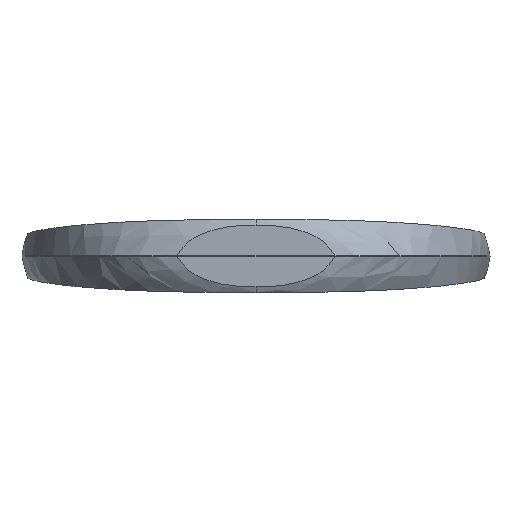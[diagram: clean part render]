
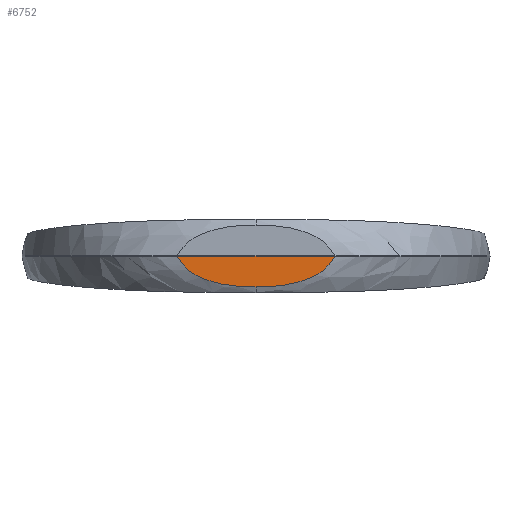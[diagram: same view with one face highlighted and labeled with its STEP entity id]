
A CAD part, front view. The second image highlights one B-rep face of the part: STEP entity #6752.
In plain terms, the highlighted planar face has unit normal (0, -1, 0).
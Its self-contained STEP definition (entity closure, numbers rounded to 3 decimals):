
#26 = CARTESIAN_POINT ( 'NONE',  ( -28.183, 0., -18.557 ) ) ;
#81 = CARTESIAN_POINT ( 'NONE',  ( -45.796, 0., -10.777 ) ) ;
#174 = CARTESIAN_POINT ( 'NONE',  ( 24.337, 0., -19.426 ) ) ;
#275 = CARTESIAN_POINT ( 'NONE',  ( 39.111, 0., -14.675 ) ) ;
#559 = CARTESIAN_POINT ( 'NONE',  ( -47.297, 0., -9.554 ) ) ;
#662 = ORIENTED_EDGE ( 'NONE', *, *, #6429, .F. ) ;
#953 = CARTESIAN_POINT ( 'NONE',  ( 17.998, 0., -20.532 ) ) ;
#1237 = CARTESIAN_POINT ( 'NONE',  ( -52.148, 0., -4.315 ) ) ;
#1287 = CARTESIAN_POINT ( 'NONE',  ( 49.637, 0., -7.299 ) ) ;
#1336 = CARTESIAN_POINT ( 'NONE',  ( 52.142, 0., -4.322 ) ) ;
#1440 = CARTESIAN_POINT ( 'NONE',  ( -40.257, 0., -14.112 ) ) ;
#1448 = EDGE_CURVE ( 'NONE', #10219, #3083, #3642, .T. ) ;
#1493 = CARTESIAN_POINT ( 'NONE',  ( 0., 0., -21.39 ) ) ;
#1791 = CARTESIAN_POINT ( 'NONE',  ( 12.884, 0., -21.039 ) ) ;
#2142 = CARTESIAN_POINT ( 'NONE',  ( 55.039, 0., 0. ) ) ;
#2229 = CARTESIAN_POINT ( 'NONE',  ( -38.499, 0., -14.942 ) ) ;
#2281 = CARTESIAN_POINT ( 'NONE',  ( -43.675, 0., -12.241 ) ) ;
#2371 = FACE_OUTER_BOUND ( 'NONE', #8545, .T. ) ;
#2380 = CARTESIAN_POINT ( 'NONE',  ( -10.323, 0., -21.206 ) ) ;
#2578 = CARTESIAN_POINT ( 'NONE',  ( 28.116, 0., -18.54 ) ) ;
#2630 = CARTESIAN_POINT ( 'NONE',  ( 25.599, 0., -19.152 ) ) ;
#2792 = CARTESIAN_POINT ( 'NONE',  ( 5.169, 0., -21.388 ) ) ;
#3078 = CARTESIAN_POINT ( 'NONE',  ( -16.745, 0., -20.663 ) ) ;
#3083 = VERTEX_POINT ( 'NONE', #2142 ) ;
#3128 = CARTESIAN_POINT ( 'NONE',  ( -2.584, 0., -21.394 ) ) ;
#3481 = CARTESIAN_POINT ( 'NONE',  ( 40.28, 0., -14.117 ) ) ;
#3586 = CARTESIAN_POINT ( 'NONE',  ( 0., 0., -21.39 ) ) ;
#3642 = B_SPLINE_CURVE_WITH_KNOTS ( 'NONE', 3,
 ( #3586, #9883, #2792, #9829, #4963, #1791, #8192, #953, #4163, #174, #2630, #2578, #5862, #5071, #4271, #275, #3481, #5913, #6711, #9935, #7886, #7732, #6194, #9421, #9266, #6941, #6091, #4605, #1287, #3810, #1336, #5247, #7783, #3657 ),
 .UNSPECIFIED., .F., .F.,
 ( 4, 2, 2, 2, 2, 2, 2, 2, 2, 2, 2, 2, 2, 2, 2, 2, 4 ),
 ( 0., 0.008, 0.012, 0.015, 0.023, 0.027, 0.031, 0.039, 0.042, 0.044, 0.046, 0.048, 0.049, 0.05, 0.054, 0.058, 0.062 ),
 .UNSPECIFIED. ) ;
#3657 = CARTESIAN_POINT ( 'NONE',  ( 55.039, 0., 0. ) ) ;
#3664 = CARTESIAN_POINT ( 'NONE',  ( -48.727, 0., -8.234 ) ) ;
#3673 = VERTEX_POINT ( 'NONE', #4987 ) ;
#3767 = CARTESIAN_POINT ( 'NONE',  ( -49.642, 0., -7.294 ) ) ;
#3810 = CARTESIAN_POINT ( 'NONE',  ( 51.338, 0., -5.353 ) ) ;
#3860 = DIRECTION ( 'NONE',  ( 1., 0., 0. ) ) ;
#3919 = CARTESIAN_POINT ( 'NONE',  ( -12.895, 0., -21.038 ) ) ;
#4020 = CARTESIAN_POINT ( 'NONE',  ( -46.806, 0., -9.974 ) ) ;
#4163 = CARTESIAN_POINT ( 'NONE',  ( 20.541, 0., -20.161 ) ) ;
#4222 = EDGE_CURVE ( 'NONE', #3673, #10219, #7425, .T. ) ;
#4271 = CARTESIAN_POINT ( 'NONE',  ( 35.554, 0., -16.224 ) ) ;
#4456 = CARTESIAN_POINT ( 'NONE',  ( -51.351, 0., -5.337 ) ) ;
#4605 = CARTESIAN_POINT ( 'NONE',  ( 48.739, 0., -8.221 ) ) ;
#4663 = CARTESIAN_POINT ( 'NONE',  ( -21.861, 0., -19.906 ) ) ;
#4690 = ORIENTED_EDGE ( 'NONE', *, *, #4222, .T. ) ;
#4767 = CARTESIAN_POINT ( 'NONE',  ( -20.583, 0., -20.124 ) ) ;
#4963 = CARTESIAN_POINT ( 'NONE',  ( 10.318, 0., -21.206 ) ) ;
#4987 = CARTESIAN_POINT ( 'NONE',  ( -55.039, 0., 0. ) ) ;
#5071 = CARTESIAN_POINT ( 'NONE',  ( 33.113, 0., -17.091 ) ) ;
#5247 = CARTESIAN_POINT ( 'NONE',  ( 53.65, 0., -2.202 ) ) ;
#5254 = CARTESIAN_POINT ( 'NONE',  ( -55.039, 0., 0. ) ) ;
#5262 = ORIENTED_EDGE ( 'NONE', *, *, #1448, .T. ) ;
#5455 = CARTESIAN_POINT ( 'NONE',  ( -46.556, 0., -10.179 ) ) ;
#5497 = CARTESIAN_POINT ( 'NONE',  ( -182.554, 0., 0. ) ) ;
#5507 = CARTESIAN_POINT ( 'NONE',  ( -39.088, 0., -14.674 ) ) ;
#5559 = CARTESIAN_POINT ( 'NONE',  ( -18.026, 0., -20.503 ) ) ;
#5612 = CARTESIAN_POINT ( 'NONE',  ( -9.035, 0., -21.265 ) ) ;
#5862 = CARTESIAN_POINT ( 'NONE',  ( 29.375, 0., -18.202 ) ) ;
#5913 = CARTESIAN_POINT ( 'NONE',  ( 41.999, 0., -13.2 ) ) ;
#6091 = CARTESIAN_POINT ( 'NONE',  ( 47.563, 0., -9.313 ) ) ;
#6194 = CARTESIAN_POINT ( 'NONE',  ( 45.832, 0., -10.75 ) ) ;
#6250 = CARTESIAN_POINT ( 'NONE',  ( -40.839, 0., -13.818 ) ) ;
#6305 = CARTESIAN_POINT ( 'NONE',  ( -33.114, 0., -17.089 ) ) ;
#6429 = EDGE_CURVE ( 'NONE', #3673, #3083, #9520, .T. ) ;
#6711 = CARTESIAN_POINT ( 'NONE',  ( 42.567, 0., -12.88 ) ) ;
#6752 = ADVANCED_FACE ( 'NONE', ( #2371 ), #7188, .F. ) ;
#6941 = CARTESIAN_POINT ( 'NONE',  ( 47.325, 0., -9.529 ) ) ;
#7188 = PLANE ( 'NONE',  #8621 ) ;
#7250 = CARTESIAN_POINT ( 'NONE',  ( -35.538, 0., -16.23 ) ) ;
#7396 = CARTESIAN_POINT ( 'NONE',  ( 0., 0., -21.39 ) ) ;
#7425 = B_SPLINE_CURVE_WITH_KNOTS ( 'NONE', 3,
 ( #5254, #7789, #8482, #1237, #4456, #3767, #3664, #7738, #559, #4020, #5455, #81, #8689, #2281, #9477, #6250, #1440, #5507, #2229, #7250, #6305, #26, #8741, #4663, #4767, #5559, #3078, #7945, #3919, #2380, #5612, #7893, #3128, #1493 ),
 .UNSPECIFIED., .F., .F.,
 ( 4, 2, 2, 2, 2, 2, 2, 2, 2, 2, 2, 2, 2, 2, 2, 2, 4 ),
 ( 0., 0.004, 0.008, 0.012, 0.013, 0.014, 0.016, 0.019, 0.021, 0.023, 0.031, 0.039, 0.043, 0.047, 0.051, 0.054, 0.062 ),
 .UNSPECIFIED. ) ;
#7732 = CARTESIAN_POINT ( 'NONE',  ( 45.31, 0., -11.13 ) ) ;
#7738 = CARTESIAN_POINT ( 'NONE',  ( -47.537, 0., -9.337 ) ) ;
#7783 = CARTESIAN_POINT ( 'NONE',  ( 54.355, 0., -1.108 ) ) ;
#7789 = CARTESIAN_POINT ( 'NONE',  ( -54.355, 0., -1.108 ) ) ;
#7830 = DIRECTION ( 'NONE',  ( 1., 0., 0. ) ) ;
#7886 = CARTESIAN_POINT ( 'NONE',  ( 44.239, 0., -11.86 ) ) ;
#7893 = CARTESIAN_POINT ( 'NONE',  ( -5.168, 0., -21.388 ) ) ;
#7945 = CARTESIAN_POINT ( 'NONE',  ( -14.18, 0., -20.93 ) ) ;
#8192 = CARTESIAN_POINT ( 'NONE',  ( 14.165, 0., -20.932 ) ) ;
#8451 = VECTOR ( 'NONE', #7830, 1000. ) ;
#8482 = CARTESIAN_POINT ( 'NONE',  ( -53.651, 0., -2.201 ) ) ;
#8545 = EDGE_LOOP ( 'NONE', ( #4690, #5262, #662 ) ) ;
#8621 = AXIS2_PLACEMENT_3D ( 'NONE', #10410, #8839, #3860 ) ;
#8689 = CARTESIAN_POINT ( 'NONE',  ( -45.275, 0., -11.155 ) ) ;
#8741 = CARTESIAN_POINT ( 'NONE',  ( -25.676, 0., -19.165 ) ) ;
#8839 = DIRECTION ( 'NONE',  ( 0., 1., 0. ) ) ;
#9266 = CARTESIAN_POINT ( 'NONE',  ( 46.838, 0., -9.948 ) ) ;
#9421 = CARTESIAN_POINT ( 'NONE',  ( 46.59, 0., -10.152 ) ) ;
#9477 = CARTESIAN_POINT ( 'NONE',  ( -42.561, 0., -12.9 ) ) ;
#9520 = LINE ( 'NONE', #5497, #8451 ) ;
#9829 = CARTESIAN_POINT ( 'NONE',  ( 9.032, 0., -21.265 ) ) ;
#9883 = CARTESIAN_POINT ( 'NONE',  ( 2.585, 0., -21.394 ) ) ;
#9935 = CARTESIAN_POINT ( 'NONE',  ( 43.688, 0., -12.209 ) ) ;
#10219 = VERTEX_POINT ( 'NONE', #7396 ) ;
#10410 = CARTESIAN_POINT ( 'NONE',  ( 702.493, 0., 0. ) ) ;
